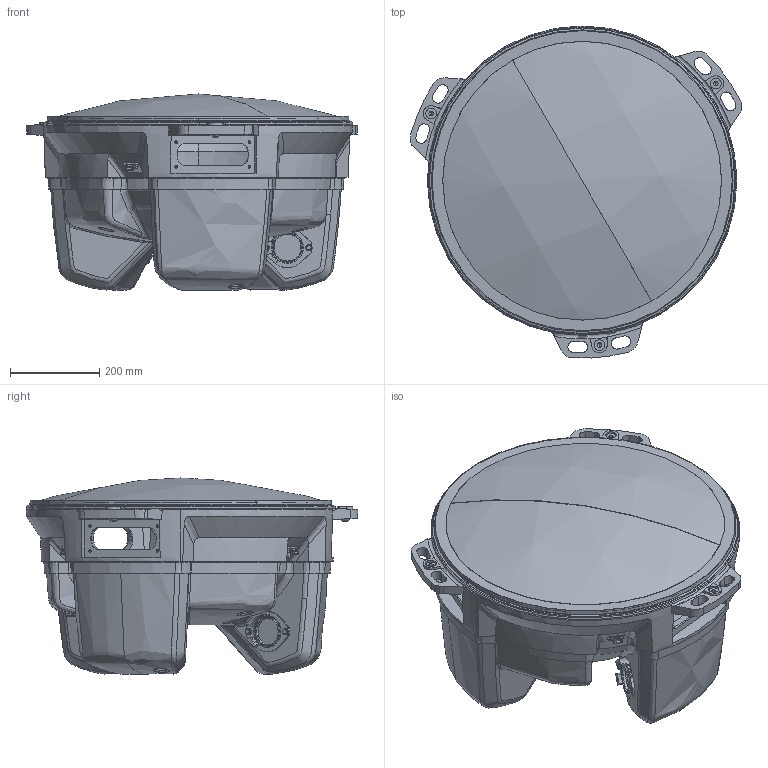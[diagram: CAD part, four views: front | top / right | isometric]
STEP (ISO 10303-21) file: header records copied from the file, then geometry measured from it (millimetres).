
FILE_DESCRIPTION (( 'STEP AP214' ), '1' );
FILE_NAME ('IRB360_X-1130-WDS-4D_rev03_BASE_CAD.STEP', '2024-01-15T12:05:43', ( '' ), ( '' ), 'SwSTEP 2.0', 'SolidWorks 2022', '' );
FILE_SCHEMA (( 'AUTOMOTIVE_DESIGN' ));
Length unit declared in the file: millimetre
Products named in the file (3): IRB360_X-1130-WDS-4D_rev03_BASE_CAD; IRB360_X-1130-WDS-4D_rev03_BASE_CAD 1
Assembly tree (2 placements, depth 2):
  IRB360_X-1130-WDS-4D_rev03_BASE_CAD
    IRB360_X-1130-WDS-4D_rev03_BASE_CAD 1
    IRB360_X-1130-WDS-4D_rev03_BASE_CAD
Bounding box: 742.55 x 743.32 x 438.99 mm (x, y, z)
Volume: 54954801.2 mm3; surface area: 3652875.7 mm2
Topology: 43 solids, 43 shells, 2312 faces, 5561 edges, 3375 vertices
Faces by surface type: bspline 614, cylinder 506, plane 473, cone 461, torus 248, sphere 10
Entity records: 129429 total; most frequent: CARTESIAN_POINT 79242, ORIENTED_EDGE 11032, DIRECTION 9476, EDGE_CURVE 5516, AXIS2_PLACEMENT_3D 4001, VERTEX_POINT 3375, EDGE_LOOP 2511, ADVANCED_FACE 2312
